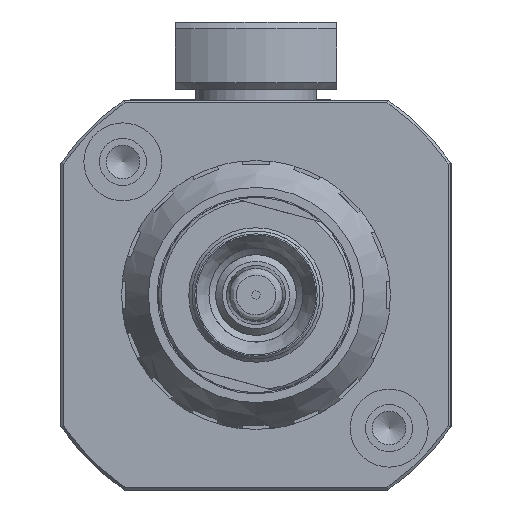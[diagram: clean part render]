
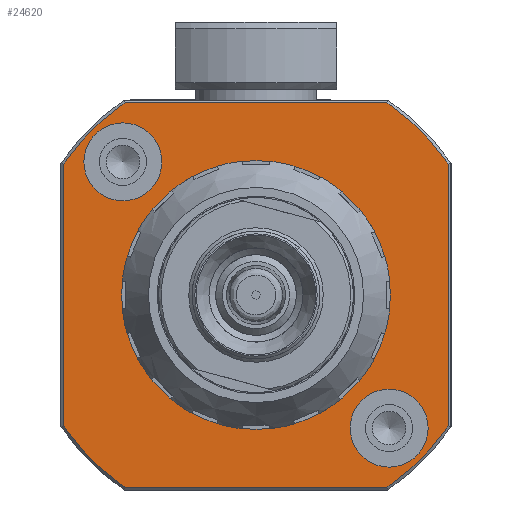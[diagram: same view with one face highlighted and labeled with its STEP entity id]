
A CAD part, front view. The second image highlights one B-rep face of the part: STEP entity #24620.
In plain terms, the highlighted planar face has unit normal (0, -1, 0).
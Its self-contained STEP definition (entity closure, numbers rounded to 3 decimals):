
#850 = VECTOR ( 'NONE', #49422, 1000. ) ;
#969 = ORIENTED_EDGE ( 'NONE', *, *, #18781, .F. ) ;
#1014 = CARTESIAN_POINT ( 'NONE',  ( -70.752, -58.254, 998.599 ) ) ;
#1023 = ORIENTED_EDGE ( 'NONE', *, *, #4340, .F. ) ;
#1164 = VERTEX_POINT ( 'NONE', #38168 ) ;
#1206 = CIRCLE ( 'NONE', #14179, 17.3 ) ;
#1349 = CIRCLE ( 'NONE', #2959, 17.3 ) ;
#1601 = LINE ( 'NONE', #23960, #9059 ) ;
#1645 = CARTESIAN_POINT ( 'NONE',  ( -56.452, -58.254, 998.599 ) ) ;
#1760 = CARTESIAN_POINT ( 'NONE',  ( -80.652, -58.254, 1008.498 ) ) ;
#2959 = AXIS2_PLACEMENT_3D ( 'NONE', #29486, #10466, #21888 ) ;
#3148 = DIRECTION ( 'NONE',  ( -1., 0., 0. ) ) ;
#4340 = EDGE_CURVE ( 'NONE', #46596, #46596, #8696, .T. ) ;
#5282 = VERTEX_POINT ( 'NONE', #48341 ) ;
#5424 = EDGE_LOOP ( 'NONE', ( #37801 ) ) ;
#5717 = DIRECTION ( 'NONE',  ( 0., 0., -1. ) ) ;
#6108 = EDGE_LOOP ( 'NONE', ( #969 ) ) ;
#7219 = DIRECTION ( 'NONE',  ( 0., 1., 0. ) ) ;
#7332 = EDGE_CURVE ( 'NONE', #1164, #46620, #16607, .T. ) ;
#7589 = CARTESIAN_POINT ( 'NONE',  ( -80.489, -58.254, 984.299 ) ) ;
#7668 = CARTESIAN_POINT ( 'NONE',  ( -56.452, -58.254, 1008.335 ) ) ;
#7808 = CARTESIAN_POINT ( 'NONE',  ( -70.752, -58.254, 998.599 ) ) ;
#8216 = FACE_BOUND ( 'NONE', #6108, .T. ) ;
#8397 = EDGE_CURVE ( 'NONE', #5282, #5282, #24682, .T. ) ;
#8696 = CIRCLE ( 'NONE', #19735, 2.9 ) ;
#8698 = VERTEX_POINT ( 'NONE', #35537 ) ;
#9059 = VECTOR ( 'NONE', #32288, 1000. ) ;
#9158 = EDGE_CURVE ( 'NONE', #41061, #41733, #1206, .T. ) ;
#10466 = DIRECTION ( 'NONE',  ( 0., 1., 0. ) ) ;
#10532 = DIRECTION ( 'NONE',  ( -1., 0., 0. ) ) ;
#11034 = PLANE ( 'NONE',  #37980 ) ;
#12025 = ORIENTED_EDGE ( 'NONE', *, *, #20762, .F. ) ;
#14179 = AXIS2_PLACEMENT_3D ( 'NONE', #1014, #27909, #35726 ) ;
#14393 = VERTEX_POINT ( 'NONE', #42786 ) ;
#15454 = CARTESIAN_POINT ( 'NONE',  ( -61.016, -58.254, 1012.899 ) ) ;
#16329 = DIRECTION ( 'NONE',  ( -1., 0., 0. ) ) ;
#16607 = LINE ( 'NONE', #48030, #26233 ) ;
#16956 = EDGE_CURVE ( 'NONE', #32458, #45763, #36355, .T. ) ;
#17998 = CARTESIAN_POINT ( 'NONE',  ( -85.052, -58.254, 1008.397 ) ) ;
#18269 = LINE ( 'NONE', #17998, #850 ) ;
#18781 = EDGE_CURVE ( 'NONE', #8698, #8698, #41651, .T. ) ;
#19735 = AXIS2_PLACEMENT_3D ( 'NONE', #29807, #45263, #10532 ) ;
#20762 = EDGE_CURVE ( 'NONE', #46620, #14393, #1349, .T. ) ;
#21506 = EDGE_CURVE ( 'NONE', #45763, #1164, #37814, .T. ) ;
#21888 = DIRECTION ( 'NONE',  ( -1., 0., 0. ) ) ;
#22448 = CARTESIAN_POINT ( 'NONE',  ( -70.752, -58.254, 998.599 ) ) ;
#23221 = FACE_OUTER_BOUND ( 'NONE', #41419, .T. ) ;
#23298 = DIRECTION ( 'NONE',  ( 0., -1., 0. ) ) ;
#23544 = CIRCLE ( 'NONE', #29221, 17.3 ) ;
#23960 = CARTESIAN_POINT ( 'NONE',  ( -70.752, -58.254, 1012.899 ) ) ;
#24552 = ORIENTED_EDGE ( 'NONE', *, *, #28639, .F. ) ;
#24620 = ADVANCED_FACE ( 'NONE', ( #38147, #38893, #8216, #23221 ), #11034, .F. ) ;
#24682 = CIRCLE ( 'NONE', #35153, 10. ) ;
#24867 = DIRECTION ( 'NONE',  ( 0., -1., 0. ) ) ;
#25470 = AXIS2_PLACEMENT_3D ( 'NONE', #1760, #24867, #36471 ) ;
#26233 = VECTOR ( 'NONE', #28776, 1000. ) ;
#26531 = EDGE_CURVE ( 'NONE', #41061, #14393, #18269, .T. ) ;
#27909 = DIRECTION ( 'NONE',  ( 0., 1., 0. ) ) ;
#28639 = EDGE_CURVE ( 'NONE', #35731, #32458, #23544, .T. ) ;
#28652 = ORIENTED_EDGE ( 'NONE', *, *, #7332, .F. ) ;
#28776 = DIRECTION ( 'NONE',  ( -1., 0., 0. ) ) ;
#29221 = AXIS2_PLACEMENT_3D ( 'NONE', #22448, #38132, #3148 ) ;
#29486 = CARTESIAN_POINT ( 'NONE',  ( -70.752, -58.254, 998.599 ) ) ;
#29674 = EDGE_CURVE ( 'NONE', #41733, #35731, #1601, .T. ) ;
#29807 = CARTESIAN_POINT ( 'NONE',  ( -60.853, -58.254, 988.699 ) ) ;
#30352 = ORIENTED_EDGE ( 'NONE', *, *, #9158, .F. ) ;
#31317 = ORIENTED_EDGE ( 'NONE', *, *, #21506, .F. ) ;
#31947 = EDGE_LOOP ( 'NONE', ( #1023 ) ) ;
#32288 = DIRECTION ( 'NONE',  ( 1., 0., 0. ) ) ;
#32294 = DIRECTION ( 'NONE',  ( 0., 1., 0. ) ) ;
#32458 = VERTEX_POINT ( 'NONE', #7668 ) ;
#32778 = VECTOR ( 'NONE', #5717, 1000. ) ;
#34036 = CARTESIAN_POINT ( 'NONE',  ( -85.052, -58.254, 1008.335 ) ) ;
#34337 = CARTESIAN_POINT ( 'NONE',  ( -70.752, -58.254, 998.599 ) ) ;
#35153 = AXIS2_PLACEMENT_3D ( 'NONE', #7808, #23298, #38729 ) ;
#35155 = CARTESIAN_POINT ( 'NONE',  ( -63.753, -58.254, 988.699 ) ) ;
#35537 = CARTESIAN_POINT ( 'NONE',  ( -83.552, -58.254, 1008.498 ) ) ;
#35573 = CARTESIAN_POINT ( 'NONE',  ( -70.752, -58.254, 998.599 ) ) ;
#35726 = DIRECTION ( 'NONE',  ( 0., 0., 1. ) ) ;
#35731 = VERTEX_POINT ( 'NONE', #15454 ) ;
#35884 = ORIENTED_EDGE ( 'NONE', *, *, #29674, .F. ) ;
#36355 = LINE ( 'NONE', #1645, #32778 ) ;
#36471 = DIRECTION ( 'NONE',  ( -1., 0., 0. ) ) ;
#37801 = ORIENTED_EDGE ( 'NONE', *, *, #8397, .F. ) ;
#37814 = CIRCLE ( 'NONE', #49146, 17.3 ) ;
#37980 = AXIS2_PLACEMENT_3D ( 'NONE', #34337, #7219, #42198 ) ;
#38132 = DIRECTION ( 'NONE',  ( 0., 1., 0. ) ) ;
#38147 = FACE_BOUND ( 'NONE', #5424, .T. ) ;
#38168 = CARTESIAN_POINT ( 'NONE',  ( -61.016, -58.254, 984.299 ) ) ;
#38729 = DIRECTION ( 'NONE',  ( 1., 0., 0. ) ) ;
#38869 = ORIENTED_EDGE ( 'NONE', *, *, #26531, .T. ) ;
#38893 = FACE_BOUND ( 'NONE', #31947, .T. ) ;
#41061 = VERTEX_POINT ( 'NONE', #34036 ) ;
#41419 = EDGE_LOOP ( 'NONE', ( #44559, #24552, #35884, #30352, #38869, #12025, #28652, #31317 ) ) ;
#41651 = CIRCLE ( 'NONE', #25470, 2.9 ) ;
#41733 = VERTEX_POINT ( 'NONE', #43723 ) ;
#42198 = DIRECTION ( 'NONE',  ( -1., 0., 0. ) ) ;
#42786 = CARTESIAN_POINT ( 'NONE',  ( -85.052, -58.254, 988.862 ) ) ;
#43696 = CARTESIAN_POINT ( 'NONE',  ( -56.452, -58.254, 988.862 ) ) ;
#43723 = CARTESIAN_POINT ( 'NONE',  ( -80.489, -58.254, 1012.899 ) ) ;
#44559 = ORIENTED_EDGE ( 'NONE', *, *, #16956, .F. ) ;
#45263 = DIRECTION ( 'NONE',  ( 0., -1., 0. ) ) ;
#45763 = VERTEX_POINT ( 'NONE', #43696 ) ;
#46596 = VERTEX_POINT ( 'NONE', #35155 ) ;
#46620 = VERTEX_POINT ( 'NONE', #7589 ) ;
#48030 = CARTESIAN_POINT ( 'NONE',  ( -70.752, -58.254, 984.299 ) ) ;
#48341 = CARTESIAN_POINT ( 'NONE',  ( -60.752, -58.254, 998.599 ) ) ;
#49146 = AXIS2_PLACEMENT_3D ( 'NONE', #35573, #32294, #16329 ) ;
#49422 = DIRECTION ( 'NONE',  ( 0., 0., -1. ) ) ;
